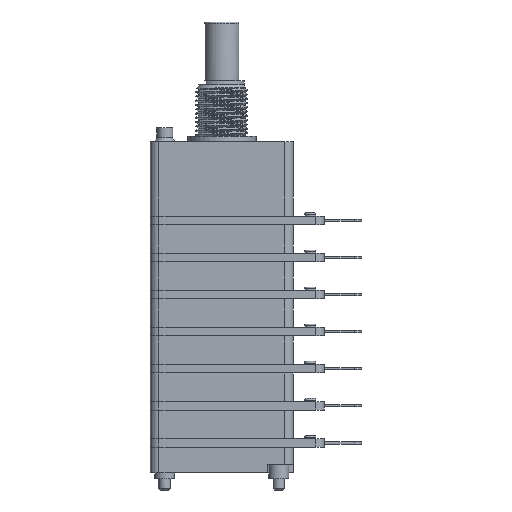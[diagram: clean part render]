
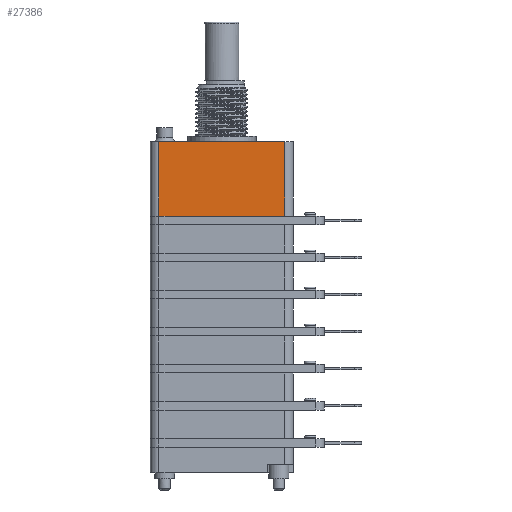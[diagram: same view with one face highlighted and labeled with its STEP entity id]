
A CAD part, left-side view. The second image highlights one B-rep face of the part: STEP entity #27386.
In plain terms, the highlighted planar face has unit normal (-1, 0, 0).
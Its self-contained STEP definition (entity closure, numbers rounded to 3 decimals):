
#23740 = PLANE('',#23741);
#23741 = AXIS2_PLACEMENT_3D('',#23742,#23743,#23744);
#23742 = CARTESIAN_POINT('',(-12.5,-18.,-15.5));
#23743 = DIRECTION('',(1.,0.,0.));
#23744 = DIRECTION('',(0.,0.,1.));
#25461 = VERTEX_POINT('',#25462);
#25462 = CARTESIAN_POINT('',(-12.5,-11.,-14.));
#25629 = CYLINDRICAL_SURFACE('',#25630,1.5);
#25630 = AXIS2_PLACEMENT_3D('',#25631,#25632,#25633);
#25631 = CARTESIAN_POINT('',(-11.,-11.,-14.));
#25632 = DIRECTION('',(0.,0.,1.));
#25633 = DIRECTION('',(-1.,0.,0.));
#25767 = PLANE('',#25768);
#25768 = AXIS2_PLACEMENT_3D('',#25769,#25770,#25771);
#25769 = CARTESIAN_POINT('',(-12.5,-12.5,-1.));
#25770 = DIRECTION('',(0.,0.,1.));
#25771 = DIRECTION('',(1.,0.,0.));
#25909 = VERTEX_POINT('',#25910);
#25910 = CARTESIAN_POINT('',(-12.5,11.,-14.));
#25925 = CYLINDRICAL_SURFACE('',#25926,1.5);
#25926 = AXIS2_PLACEMENT_3D('',#25927,#25928,#25929);
#25927 = CARTESIAN_POINT('',(-11.,11.,-14.));
#25928 = DIRECTION('',(0.,0.,1.));
#25929 = DIRECTION('',(-1.,0.,0.));
#26034 = EDGE_CURVE('',#25461,#25909,#26035,.T.);
#26035 = SURFACE_CURVE('',#26036,(#26040,#26047),.PCURVE_S1.);
#26036 = LINE('',#26037,#26038);
#26037 = CARTESIAN_POINT('',(-12.5,-18.,-14.));
#26038 = VECTOR('',#26039,1.);
#26039 = DIRECTION('',(0.,1.,0.));
#26040 = PCURVE('',#23740,#26041);
#26041 = DEFINITIONAL_REPRESENTATION('',(#26042),#26046);
#26042 = LINE('',#26043,#26044);
#26043 = CARTESIAN_POINT('',(1.5,0.));
#26044 = VECTOR('',#26045,1.);
#26045 = DIRECTION('',(0.,-1.));
#26046 = ( GEOMETRIC_REPRESENTATION_CONTEXT(2) 
PARAMETRIC_REPRESENTATION_CONTEXT() REPRESENTATION_CONTEXT('2D SPACE',''
  ) );
#26047 = PCURVE('',#26048,#26053);
#26048 = PLANE('',#26049);
#26049 = AXIS2_PLACEMENT_3D('',#26050,#26051,#26052);
#26050 = CARTESIAN_POINT('',(-12.5,-12.5,-14.));
#26051 = DIRECTION('',(1.,0.,0.));
#26052 = DIRECTION('',(0.,0.,1.));
#26053 = DEFINITIONAL_REPRESENTATION('',(#26054),#26058);
#26054 = LINE('',#26055,#26056);
#26055 = CARTESIAN_POINT('',(0.,5.5));
#26056 = VECTOR('',#26057,1.);
#26057 = DIRECTION('',(0.,-1.));
#26058 = ( GEOMETRIC_REPRESENTATION_CONTEXT(2) 
PARAMETRIC_REPRESENTATION_CONTEXT() REPRESENTATION_CONTEXT('2D SPACE',''
  ) );
#26884 = VERTEX_POINT('',#26885);
#26885 = CARTESIAN_POINT('',(-12.5,-11.,-1.));
#26907 = EDGE_CURVE('',#25461,#26884,#26908,.T.);
#26908 = SURFACE_CURVE('',#26909,(#26913,#26920),.PCURVE_S1.);
#26909 = LINE('',#26910,#26911);
#26910 = CARTESIAN_POINT('',(-12.5,-11.,-14.));
#26911 = VECTOR('',#26912,1.);
#26912 = DIRECTION('',(0.,0.,1.));
#26913 = PCURVE('',#25629,#26914);
#26914 = DEFINITIONAL_REPRESENTATION('',(#26915),#26919);
#26915 = LINE('',#26916,#26917);
#26916 = CARTESIAN_POINT('',(0.,0.));
#26917 = VECTOR('',#26918,1.);
#26918 = DIRECTION('',(0.,1.));
#26919 = ( GEOMETRIC_REPRESENTATION_CONTEXT(2) 
PARAMETRIC_REPRESENTATION_CONTEXT() REPRESENTATION_CONTEXT('2D SPACE',''
  ) );
#26920 = PCURVE('',#26048,#26921);
#26921 = DEFINITIONAL_REPRESENTATION('',(#26922),#26926);
#26922 = LINE('',#26923,#26924);
#26923 = CARTESIAN_POINT('',(0.,-1.5));
#26924 = VECTOR('',#26925,1.);
#26925 = DIRECTION('',(1.,0.));
#26926 = ( GEOMETRIC_REPRESENTATION_CONTEXT(2) 
PARAMETRIC_REPRESENTATION_CONTEXT() REPRESENTATION_CONTEXT('2D SPACE',''
  ) );
#27173 = EDGE_CURVE('',#26884,#27174,#27176,.T.);
#27174 = VERTEX_POINT('',#27175);
#27175 = CARTESIAN_POINT('',(-12.5,11.,-1.));
#27176 = SURFACE_CURVE('',#27177,(#27181,#27188),.PCURVE_S1.);
#27177 = LINE('',#27178,#27179);
#27178 = CARTESIAN_POINT('',(-12.5,-12.5,-1.));
#27179 = VECTOR('',#27180,1.);
#27180 = DIRECTION('',(0.,1.,0.));
#27181 = PCURVE('',#25767,#27182);
#27182 = DEFINITIONAL_REPRESENTATION('',(#27183),#27187);
#27183 = LINE('',#27184,#27185);
#27184 = CARTESIAN_POINT('',(0.,0.));
#27185 = VECTOR('',#27186,1.);
#27186 = DIRECTION('',(0.,1.));
#27187 = ( GEOMETRIC_REPRESENTATION_CONTEXT(2) 
PARAMETRIC_REPRESENTATION_CONTEXT() REPRESENTATION_CONTEXT('2D SPACE',''
  ) );
#27188 = PCURVE('',#26048,#27189);
#27189 = DEFINITIONAL_REPRESENTATION('',(#27190),#27194);
#27190 = LINE('',#27191,#27192);
#27191 = CARTESIAN_POINT('',(13.,0.));
#27192 = VECTOR('',#27193,1.);
#27193 = DIRECTION('',(0.,-1.));
#27194 = ( GEOMETRIC_REPRESENTATION_CONTEXT(2) 
PARAMETRIC_REPRESENTATION_CONTEXT() REPRESENTATION_CONTEXT('2D SPACE',''
  ) );
#27366 = EDGE_CURVE('',#25909,#27174,#27367,.T.);
#27367 = SURFACE_CURVE('',#27368,(#27372,#27379),.PCURVE_S1.);
#27368 = LINE('',#27369,#27370);
#27369 = CARTESIAN_POINT('',(-12.5,11.,-14.));
#27370 = VECTOR('',#27371,1.);
#27371 = DIRECTION('',(0.,0.,1.));
#27372 = PCURVE('',#25925,#27373);
#27373 = DEFINITIONAL_REPRESENTATION('',(#27374),#27378);
#27374 = LINE('',#27375,#27376);
#27375 = CARTESIAN_POINT('',(-0.,0.));
#27376 = VECTOR('',#27377,1.);
#27377 = DIRECTION('',(-0.,1.));
#27378 = ( GEOMETRIC_REPRESENTATION_CONTEXT(2) 
PARAMETRIC_REPRESENTATION_CONTEXT() REPRESENTATION_CONTEXT('2D SPACE',''
  ) );
#27379 = PCURVE('',#26048,#27380);
#27380 = DEFINITIONAL_REPRESENTATION('',(#27381),#27385);
#27381 = LINE('',#27382,#27383);
#27382 = CARTESIAN_POINT('',(0.,-23.5));
#27383 = VECTOR('',#27384,1.);
#27384 = DIRECTION('',(1.,0.));
#27385 = ( GEOMETRIC_REPRESENTATION_CONTEXT(2) 
PARAMETRIC_REPRESENTATION_CONTEXT() REPRESENTATION_CONTEXT('2D SPACE',''
  ) );
#27386 = ADVANCED_FACE('',(#27387),#26048,.F.);
#27387 = FACE_BOUND('',#27388,.F.);
#27388 = EDGE_LOOP('',(#27389,#27390,#27391,#27392));
#27389 = ORIENTED_EDGE('',*,*,#27173,.F.);
#27390 = ORIENTED_EDGE('',*,*,#26907,.F.);
#27391 = ORIENTED_EDGE('',*,*,#26034,.T.);
#27392 = ORIENTED_EDGE('',*,*,#27366,.T.);
